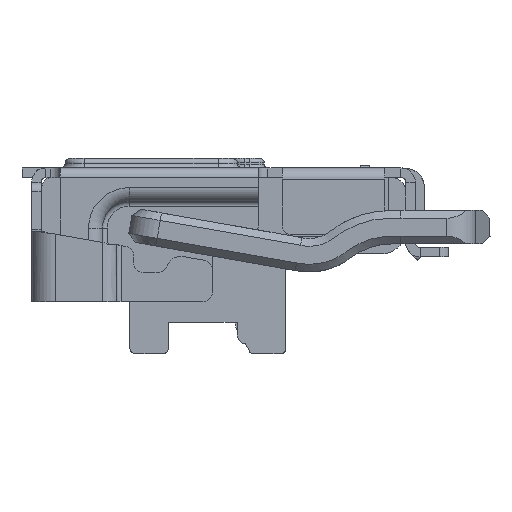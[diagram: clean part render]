
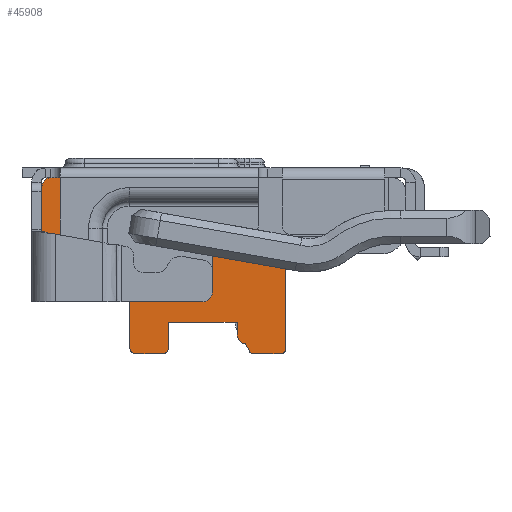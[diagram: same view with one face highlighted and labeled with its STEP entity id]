
A CAD part, left-side view. The second image highlights one B-rep face of the part: STEP entity #45908.
In plain terms, the highlighted planar face has unit normal (-1, 0, 0).
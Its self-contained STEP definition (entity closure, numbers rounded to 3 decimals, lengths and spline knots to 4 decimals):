
#164=DIRECTION('',(0.,-1.,0.));
#165=VECTOR('',#164,1.7216);
#166=CARTESIAN_POINT('',(2.775,4.26,2.4407));
#167=LINE('',#166,#165);
#3230=DIRECTION('',(0.,0.,1.));
#3231=VECTOR('',#3230,0.6004);
#3232=CARTESIAN_POINT('',(2.775,4.36,1.7404));
#3233=LINE('',#3232,#3231);
#3702=DIRECTION('',(0.,0.,-1.));
#3703=VECTOR('',#3702,1.0896);
#3704=CARTESIAN_POINT('',(2.775,3.44,1.7404));
#3705=LINE('',#3704,#3703);
#3884=DIRECTION('',(0.,0.,-1.));
#3885=VECTOR('',#3884,0.28);
#3886=CARTESIAN_POINT('',(2.775,3.04,0.9307));
#3887=LINE('',#3886,#3885);
#12406=DIRECTION('',(0.,1.,-0.003));
#12407=VECTOR('',#12406,0.7284);
#12408=CARTESIAN_POINT('',(2.775,1.81,1.6408));
#12409=LINE('',#12408,#12407);
#12448=DIRECTION('',(0.,0.,1.));
#12449=VECTOR('',#12448,0.8025);
#12450=CARTESIAN_POINT('',(2.775,2.5384,1.6382));
#12451=LINE('',#12450,#12449);
#12460=DIRECTION('',(0.,1.,0.));
#12461=VECTOR('',#12460,0.92);
#12462=CARTESIAN_POINT('',(2.775,3.44,1.7404));
#12463=LINE('',#12462,#12461);
#12464=CARTESIAN_POINT('',(2.775,4.26,2.3407));
#12465=DIRECTION('',(-1.,0.,0.));
#12466=DIRECTION('',(0.,0.,1.));
#12467=AXIS2_PLACEMENT_3D('',#12464,#12465,#12466);
#12469=DIRECTION('',(0.,0.,-1.));
#12470=VECTOR('',#12469,0.9901);
#12471=CARTESIAN_POINT('',(2.775,1.81,1.6408));
#12472=LINE('',#12471,#12470);
#12473=CARTESIAN_POINT('',(2.775,1.86,0.6507));
#12474=DIRECTION('',(-1.,0.,0.));
#12475=DIRECTION('',(0.,0.,-1.));
#12476=AXIS2_PLACEMENT_3D('',#12473,#12474,#12475);
#12478=DIRECTION('',(0.,1.,0.));
#12479=VECTOR('',#12478,0.2891);
#12480=CARTESIAN_POINT('',(2.775,1.86,0.6007));
#12481=LINE('',#12480,#12479);
#12482=CARTESIAN_POINT('',(2.775,2.1491,0.6507));
#12483=DIRECTION('',(-1.,0.,0.));
#12484=DIRECTION('',(0.,0.894,-0.447));
#12485=AXIS2_PLACEMENT_3D('',#12482,#12483,#12484);
#12487=DIRECTION('',(0.,-0.447,-0.894));
#12488=VECTOR('',#12487,0.0815);
#12489=CARTESIAN_POINT('',(2.775,2.2303,0.7012));
#12490=LINE('',#12489,#12488);
#12491=CARTESIAN_POINT('',(2.775,2.22,0.8007));
#12492=DIRECTION('',(-1.,0.,0.));
#12493=DIRECTION('',(0.,1.,0.));
#12494=AXIS2_PLACEMENT_3D('',#12491,#12492,#12493);
#12496=CARTESIAN_POINT('',(2.775,3.09,0.6507));
#12497=DIRECTION('',(-1.,0.,0.));
#12498=DIRECTION('',(0.,0.,-1.));
#12499=AXIS2_PLACEMENT_3D('',#12496,#12497,#12498);
#12501=CARTESIAN_POINT('',(2.775,3.39,0.6507));
#12502=DIRECTION('',(-1.,0.,0.));
#12503=DIRECTION('',(0.,1.,0.));
#12504=AXIS2_PLACEMENT_3D('',#12501,#12502,#12503);
#16491=DIRECTION('',(0.,0.,1.));
#16492=VECTOR('',#16491,0.13);
#16493=CARTESIAN_POINT('',(2.775,2.32,0.8007));
#16494=LINE('',#16493,#16492);
#16533=DIRECTION('',(0.,1.,0.));
#16534=VECTOR('',#16533,0.72);
#16535=CARTESIAN_POINT('',(2.775,2.32,0.9307));
#16536=LINE('',#16535,#16534);
#17846=DIRECTION('',(0.,1.,0.));
#17847=VECTOR('',#17846,0.3);
#17848=CARTESIAN_POINT('',(2.775,3.09,0.6007));
#17849=LINE('',#17848,#17847);
#22891=CARTESIAN_POINT('',(2.775,2.1938,0.6284));
#22892=CARTESIAN_POINT('',(2.775,2.1491,0.6007));
#22893=VERTEX_POINT('',#22891);
#22894=VERTEX_POINT('',#22892);
#22895=CARTESIAN_POINT('',(2.775,3.09,0.6007));
#22896=CARTESIAN_POINT('',(2.775,3.04,0.6507));
#22897=VERTEX_POINT('',#22895);
#22898=VERTEX_POINT('',#22896);
#22899=CARTESIAN_POINT('',(2.775,3.39,0.6007));
#22900=VERTEX_POINT('',#22899);
#22901=CARTESIAN_POINT('',(2.775,2.2303,0.7012));
#22902=VERTEX_POINT('',#22901);
#22921=CARTESIAN_POINT('',(2.775,3.44,0.6507));
#22922=VERTEX_POINT('',#22921);
#23143=CARTESIAN_POINT('',(2.775,2.32,0.8007));
#23144=VERTEX_POINT('',#23143);
#25741=CARTESIAN_POINT('',(2.775,1.86,0.6007));
#25742=CARTESIAN_POINT('',(2.775,1.81,0.6507));
#25743=VERTEX_POINT('',#25741);
#25744=VERTEX_POINT('',#25742);
#25921=CARTESIAN_POINT('',(2.775,2.32,0.9307));
#25922=CARTESIAN_POINT('',(2.775,3.04,0.9307));
#25923=VERTEX_POINT('',#25921);
#25924=VERTEX_POINT('',#25922);
#25943=CARTESIAN_POINT('',(2.775,2.5384,2.4407));
#25944=VERTEX_POINT('',#25943);
#25947=CARTESIAN_POINT('',(2.775,1.81,1.6408));
#25948=VERTEX_POINT('',#25947);
#27650=CARTESIAN_POINT('',(2.775,3.44,1.7404));
#27651=CARTESIAN_POINT('',(2.775,4.36,1.7404));
#27652=VERTEX_POINT('',#27650);
#27653=VERTEX_POINT('',#27651);
#27659=CARTESIAN_POINT('',(2.775,2.5384,1.6382));
#27661=VERTEX_POINT('',#27659);
#29410=CARTESIAN_POINT('',(2.775,4.26,2.4407));
#29411=VERTEX_POINT('',#29410);
#29412=CARTESIAN_POINT('',(2.775,4.36,2.3407));
#29413=VERTEX_POINT('',#29412);
#45871=CARTESIAN_POINT('',(2.775,2.63,1.5707));
#45872=DIRECTION('',(1.,0.,0.));
#45873=DIRECTION('',(0.,1.,0.));
#45874=AXIS2_PLACEMENT_3D('',#45871,#45872,#45873);
#45875=PLANE('',#45874);
#45876=ORIENTED_EDGE('',*,*,#32728,.F.);
#45877=ORIENTED_EDGE('',*,*,#32681,.T.);
#45878=ORIENTED_EDGE('',*,*,#32376,.T.);
#45880=ORIENTED_EDGE('',*,*,#45879,.F.);
#45881=ORIENTED_EDGE('',*,*,#29946,.T.);
#45882=ORIENTED_EDGE('',*,*,#45861,.F.);
#45883=ORIENTED_EDGE('',*,*,#45813,.F.);
#45884=ORIENTED_EDGE('',*,*,#36880,.T.);
#45886=ORIENTED_EDGE('',*,*,#45885,.F.);
#45888=ORIENTED_EDGE('',*,*,#45887,.T.);
#45890=ORIENTED_EDGE('',*,*,#45889,.F.);
#45892=ORIENTED_EDGE('',*,*,#45891,.F.);
#45894=ORIENTED_EDGE('',*,*,#45893,.F.);
#45896=ORIENTED_EDGE('',*,*,#45895,.T.);
#45898=ORIENTED_EDGE('',*,*,#45897,.T.);
#45899=ORIENTED_EDGE('',*,*,#32981,.T.);
#45901=ORIENTED_EDGE('',*,*,#45900,.F.);
#45903=ORIENTED_EDGE('',*,*,#45902,.T.);
#45905=ORIENTED_EDGE('',*,*,#45904,.F.);
#45906=EDGE_LOOP('',(#45876,#45877,#45878,#45880,#45881,#45882,#45883,#45884,
#45886,#45888,#45890,#45892,#45894,#45896,#45898,#45899,#45901,#45903,#45905));
#45907=FACE_OUTER_BOUND('',#45906,.F.);
#45908=ADVANCED_FACE('',(#45907),#45875,.F.);
#12468=CIRCLE('',#12467,0.1);
#12477=CIRCLE('',#12476,0.05);
#12486=CIRCLE('',#12485,0.05);
#12495=CIRCLE('',#12494,0.1);
#12500=CIRCLE('',#12499,0.05);
#12505=CIRCLE('',#12504,0.05);
#29946=EDGE_CURVE('',#29411,#25944,#167,.T.);
#32376=EDGE_CURVE('',#27653,#29413,#3233,.T.);
#32681=EDGE_CURVE('',#27652,#27653,#12463,.T.);
#32728=EDGE_CURVE('',#27652,#22922,#3705,.T.);
#32981=EDGE_CURVE('',#25924,#22898,#3887,.T.);
#36880=EDGE_CURVE('',#25948,#25744,#12472,.T.);
#45813=EDGE_CURVE('',#25948,#27661,#12409,.T.);
#45861=EDGE_CURVE('',#27661,#25944,#12451,.T.);
#45879=EDGE_CURVE('',#29411,#29413,#12468,.T.);
#45885=EDGE_CURVE('',#25743,#25744,#12477,.T.);
#45887=EDGE_CURVE('',#25743,#22894,#12481,.T.);
#45889=EDGE_CURVE('',#22893,#22894,#12486,.T.);
#45891=EDGE_CURVE('',#22902,#22893,#12490,.T.);
#45893=EDGE_CURVE('',#23144,#22902,#12495,.T.);
#45895=EDGE_CURVE('',#23144,#25923,#16494,.T.);
#45897=EDGE_CURVE('',#25923,#25924,#16536,.T.);
#45900=EDGE_CURVE('',#22897,#22898,#12500,.T.);
#45902=EDGE_CURVE('',#22897,#22900,#17849,.T.);
#45904=EDGE_CURVE('',#22922,#22900,#12505,.T.);
